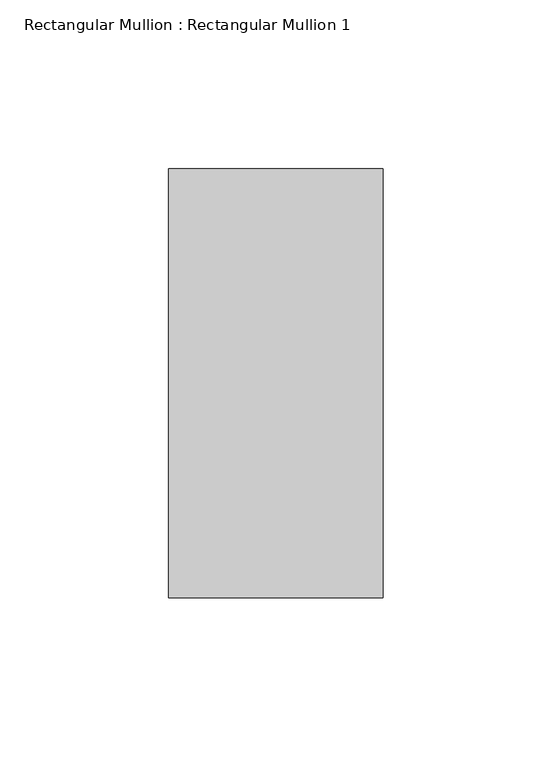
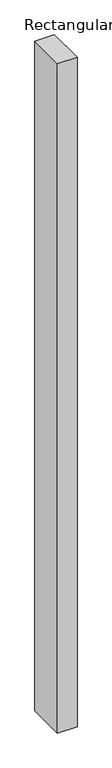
"""IFC4 building model written with IfcOpenShell, lengths in millimetres: member geometry, Rectangular Mullion : Rectangular Mullion 1."""

import ifcopenshell
import ifcopenshell.guid

model = None  # the IFC model being written
_history = None  # IfcOwnerHistory: only IFC2X3 demands one
_inside = {}  # id of a spatial element -> (the spatial element, [elements in it])
_under = {}  # id of a project, library or spatial element -> (it, [spatial elements below it])
_declared = {}  # id of a project -> (the project, [libraries it declares])
_typed = {}  # id of a type object -> (the type object, [elements of that type])
_made_of = {}  # id of a material, layer set ... -> (it, [elements and type objects made of it])


def new_model(schema):
    """Start an empty IFC model of exactly this schema.

    Asked for "IFC4X3", IfcOpenShell would pick the latest addendum, in which some entities
    have other attributes; the version numbers below select the first issue.
    IFC2X3 requires an IfcOwnerHistory on every rooted entity: one is made here for all.
    """
    global model, _history
    if schema == "IFC4X3":
        model = ifcopenshell.file(schema_version=(4, 3, 0, 0))
    else:
        model = ifcopenshell.file(schema=schema)
    _inside.clear()
    _under.clear()
    _declared.clear()
    _typed.clear()
    _made_of.clear()
    _history = None
    if model.schema == "IFC2X3":
        org = make("IfcOrganization", Name="unknown")
        user = make(
            "IfcPersonAndOrganization",
            ThePerson=make("IfcPerson", FamilyName="unknown"),
            TheOrganization=org,
        )
        app = make(
            "IfcApplication",
            ApplicationDeveloper=org,
            Version="unknown",
            ApplicationFullName="unknown",
            ApplicationIdentifier="unknown",
        )
        _history = make(
            "IfcOwnerHistory",
            OwningUser=user,
            OwningApplication=app,
            ChangeAction="ADDED",
            CreationDate=0,
        )
    return model


def make(cls, **values):
    """One entity of the class cls with the attributes given. An attribute that is None is left unset."""
    return model.create_entity(
        cls, **{name: value for name, value in values.items() if value is not None}
    )


def rooted(cls, **values):
    """An entity with a GlobalId (a new one), such as an element, a storey or a relation."""
    return make(cls, GlobalId=ifcopenshell.guid.new(), OwnerHistory=_history, **values)


def si_unit(unit_type, name, prefix=None):
    """IfcSIUnit, for example si_unit("LENGTHUNIT", "METRE", prefix="MILLI")."""
    return make("IfcSIUnit", UnitType=unit_type, Prefix=prefix, Name=name)


def assignment(units):
    """IfcUnitAssignment: the units of a project."""
    return None if units is None else make("IfcUnitAssignment", Units=units)


def point(xyz):
    """IfcCartesianPoint."""
    return None if xyz is None else make("IfcCartesianPoint", Coordinates=xyz)


def direction(xyz):
    """IfcDirection."""
    return None if xyz is None else make("IfcDirection", DirectionRatios=xyz)


def frame(location, z_axis=None, x_axis=None):
    """IfcAxis2Placement3D, a coordinate frame: its origin and axes. An axis left out is left unset."""
    return make(
        "IfcAxis2Placement3D",
        Location=point(location),
        Axis=direction(z_axis),
        RefDirection=direction(x_axis),
    )


def origin():
    """The frame at (0, 0, 0) with its axes left unset."""
    return frame((0.0, 0.0, 0.0))


def place(relative_to, where):
    """IfcLocalPlacement: puts the frame where relative to a parent placement (None: the world)."""
    return make(
        "IfcLocalPlacement", PlacementRelTo=relative_to, RelativePlacement=where
    )


def context(
    kind, dimensions, precision=None, world=None, true_north=None, identifier=None
):
    """IfcGeometricRepresentationContext, for example the 3D "Model" context."""
    return make(
        "IfcGeometricRepresentationContext",
        ContextIdentifier=identifier,
        ContextType=kind,
        CoordinateSpaceDimension=dimensions,
        Precision=precision,
        WorldCoordinateSystem=world,
        TrueNorth=true_north,
    )


def project(units=None, contexts=None):
    """IfcProject with its units and contexts."""
    return rooted(
        "IfcProject",
        Name="project",
        RepresentationContexts=contexts,
        UnitsInContext=assignment(units),
    )


def spatial(cls, under=None, at=None, **own):
    """A site, building, storey or space (cls), placed at a placement, below another one or the project."""
    s = rooted(cls, ObjectPlacement=at, **own)
    if under is not None:
        _under.setdefault(under.id(), (under, []))[1].append(s)
    return s


def polyline(points):
    """IfcPolyline through the points."""
    return make("IfcPolyline", Points=[point(p) for p in points])


def outline(outer, holes=None, kind="AREA"):
    """IfcArbitraryClosedProfileDef: a profile drawn as a closed curve; with holes, ...WithVoids."""
    if holes is None:
        return make("IfcArbitraryClosedProfileDef", ProfileType=kind, OuterCurve=outer)
    return make(
        "IfcArbitraryProfileDefWithVoids",
        ProfileType=kind,
        OuterCurve=outer,
        InnerCurves=holes,
    )


def extrude(swept, where, along, depth):
    """IfcExtrudedAreaSolid: the profile swept, set in the frame where, extruded along a direction by depth."""
    return make(
        "IfcExtrudedAreaSolid",
        SweptArea=swept,
        Position=where,
        ExtrudedDirection=direction(along),
        Depth=depth,
    )


def shape(context_of_items, identifier, shape_type, items):
    """IfcShapeRepresentation: the items that make up one representation, for example the "Body"."""
    return make(
        "IfcShapeRepresentation",
        ContextOfItems=context_of_items,
        RepresentationIdentifier=identifier,
        RepresentationType=shape_type,
        Items=items,
    )


def source(mapping_origin, context_of_items, identifier, shape_type, items):
    """IfcRepresentationMap: a shape defined once, which mapped items show again and again."""
    return make(
        "IfcRepresentationMap",
        MappingOrigin=mapping_origin,
        MappedRepresentation=shape(context_of_items, identifier, shape_type, items),
    )


def transform(
    local_origin,
    x_axis=None,
    y_axis=None,
    z_axis=None,
    scale=None,
    scale2=None,
    scale3=None,
    uniform=True,
):
    """IfcCartesianTransformationOperator3D, or its non-uniform kind. x_axis, y_axis, z_axis: its Axis1, 2, 3."""
    if uniform:
        return make(
            "IfcCartesianTransformationOperator3D",
            Axis1=direction(x_axis),
            Axis2=direction(y_axis),
            LocalOrigin=point(local_origin),
            Scale=scale,
            Axis3=direction(z_axis),
        )
    return make(
        "IfcCartesianTransformationOperator3DnonUniform",
        Axis1=direction(x_axis),
        Axis2=direction(y_axis),
        LocalOrigin=point(local_origin),
        Scale=scale,
        Axis3=direction(z_axis),
        Scale2=scale2,
        Scale3=scale3,
    )


def mapped(mapping_source, mapping_target):
    """IfcMappedItem: shows the shape of a source again, moved by a transform."""
    return make(
        "IfcMappedItem", MappingSource=mapping_source, MappingTarget=mapping_target
    )


def made_of(thing, what):
    """Note that an element or type object is made of a material, layer set ...; save() writes the relation."""
    if what is not None:
        _made_of.setdefault(what.id(), (what, []))[1].append(thing)
    return thing


def element(
    cls,
    number,
    at=None,
    inside=None,
    cuts=None,
    type_object=None,
    material=None,
    context=None,
    identifier="Body",
    shape_type=None,
    held_by="IfcProductDefinitionShape",
    body=None,
    shapes=None,
    **own,
):
    """One element of the class cls, such as IfcWall. Its Tag is "e" and its number.

    at: its placement. inside: the storey or other place that contains it. cuts: it is an
    opening in that element (IfcRelVoidsElement). A single representation is given by context,
    identifier, shape_type and body (its items); several are given by shapes. held_by: the class
    of the entity that holds the representations. save() writes the other relations.
    """
    e = rooted(cls, Tag="e%d" % number, ObjectPlacement=at, **own)
    if body is not None:
        shapes = [shape(context, identifier, shape_type, body)]
    if shapes is not None:
        e.Representation = make(held_by, Representations=shapes)
    if inside is not None:
        _inside.setdefault(inside.id(), (inside, []))[1].append(e)
    if cuts is not None:
        rooted(
            "IfcRelVoidsElement", RelatingBuildingElement=cuts, RelatedOpeningElement=e
        )
    if type_object is not None:
        _typed.setdefault(type_object.id(), (type_object, []))[1].append(e)
    return made_of(e, material)


def aggregate(whole, parts):
    """IfcRelAggregates: a whole, such as a stair, and the parts it consists of."""
    return rooted("IfcRelAggregates", RelatingObject=whole, RelatedObjects=parts)


def save(model, path):
    """Write the relations noted so far, then the file.

    IfcRelAggregates (storeys below a building ...), IfcRelContainedInSpatialStructure (elements
    in a storey), IfcRelDefinesByType, IfcRelAssociatesMaterial and IfcRelDeclares: one each for
    every whole, place, type object, material and project.
    """
    for whole, parts in _under.values():
        aggregate(whole, parts)
    for where, things in _inside.values():
        rooted(
            "IfcRelContainedInSpatialStructure",
            RelatedElements=things,
            RelatingStructure=where,
        )
    for kind, things in _typed.values():
        rooted("IfcRelDefinesByType", RelatedObjects=things, RelatingType=kind)
    for what, things in _made_of.values():
        rooted("IfcRelAssociatesMaterial", RelatedObjects=things, RelatingMaterial=what)
    for by, libraries in _declared.values():
        rooted("IfcRelDeclares", RelatingContext=by, RelatedDefinitions=libraries)
    model.write(path)


def rectangular_mullion_rectangular_mullion_1_9e4c6207(model_context):
    return source(origin(), model_context, "Body", "SweptSolid", [
        extrude(outline(polyline([(31.75, 63.5), (31.75, -63.5), (-31.75, -63.5), (-31.75, 63.5), (31.75, 63.5)])), frame((0.0, 0.0, -2300.0), z_axis=(0.0, 0.0, 1.0), x_axis=(1.0, 0.0, 0.0)), (0.0, 0.0, 1.0), 2300.0),
    ])


if __name__ == "__main__":
    model = new_model("IFC4")
    model_context = context("Model", 3, world=origin())
    ifc_project = project(units=[si_unit("LENGTHUNIT", "METRE", prefix="MILLI")], contexts=[model_context])
    site = spatial("IfcSite", under=ifc_project)
    building = spatial("IfcBuilding", under=site)
    placement = place(None, origin())
    rectangular_mullion_rectangular_mullion_1_shape = rectangular_mullion_rectangular_mullion_1_9e4c6207(model_context)
    element("IfcMember", 1, ObjectType="Rectangular Mullion : Rectangular Mullion 1", at=placement, inside=building, context=model_context, shape_type="MappedRepresentation", body=[
        mapped(rectangular_mullion_rectangular_mullion_1_shape, transform((0.0, 0.0, 0.0), x_axis=(1.0, 0.0, 0.0), y_axis=(0.0, 1.0, 0.0), z_axis=(0.0, 0.0, 1.0))),
    ])
    save(model, "model.ifc")
